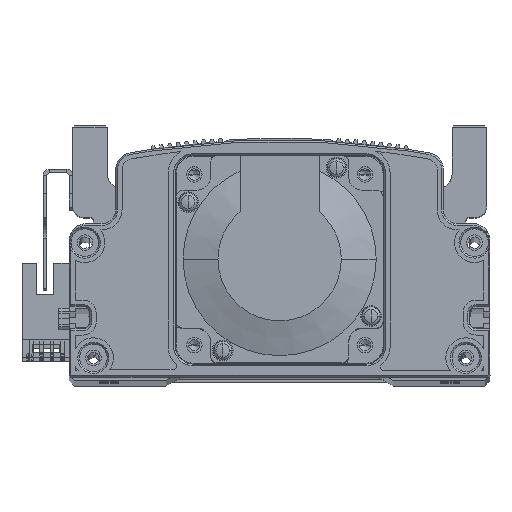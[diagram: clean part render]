
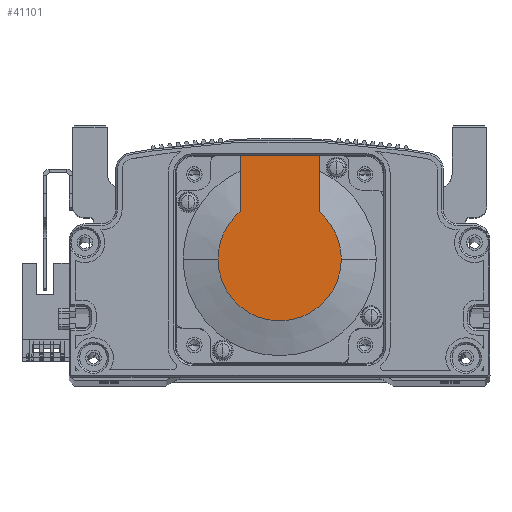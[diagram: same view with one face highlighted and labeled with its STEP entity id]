
A CAD part, top view. The second image highlights one B-rep face of the part: STEP entity #41101.
In plain terms, the highlighted planar face has unit normal (0, 0, 1) as drawn and (-1, 0, 0) by its records, which use the part's own axes.
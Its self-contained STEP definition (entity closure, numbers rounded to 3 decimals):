
#949 = CARTESIAN_POINT ( 'NONE',  ( -118.5, 30., -11.45 ) ) ;
#3178 = DIRECTION ( 'NONE',  ( 0., 0., 1. ) ) ;
#3712 = ORIENTED_EDGE ( 'NONE', *, *, #66453, .T. ) ;
#4598 = DIRECTION ( 'NONE',  ( -1., 0., 0. ) ) ;
#5416 = EDGE_CURVE ( 'NONE', #17328, #13205, #7806, .T. ) ;
#5424 = CARTESIAN_POINT ( 'NONE',  ( -118.5, 13.735, -11.45 ) ) ;
#5622 = VERTEX_POINT ( 'NONE', #949 ) ;
#5881 = ORIENTED_EDGE ( 'NONE', *, *, #34155, .F. ) ;
#6160 = DIRECTION ( 'NONE',  ( 0., 0., 1. ) ) ;
#6773 = EDGE_LOOP ( 'NONE', ( #3712, #12531, #50678, #48368, #5881, #22177 ) ) ;
#7806 = CIRCLE ( 'NONE', #20274, 17.881 ) ;
#8001 = CARTESIAN_POINT ( 'NONE',  ( -118.5, 13.735, 11.45 ) ) ;
#8006 = CIRCLE ( 'NONE', #46372, 17.881 ) ;
#11501 = VERTEX_POINT ( 'NONE', #5424 ) ;
#11982 = CARTESIAN_POINT ( 'NONE',  ( -118.5, 30., 25. ) ) ;
#12531 = ORIENTED_EDGE ( 'NONE', *, *, #61828, .T. ) ;
#13205 = VERTEX_POINT ( 'NONE', #63807 ) ;
#17328 = VERTEX_POINT ( 'NONE', #18925 ) ;
#18925 = CARTESIAN_POINT ( 'NONE',  ( -118.5, 0., -17.881 ) ) ;
#20274 = AXIS2_PLACEMENT_3D ( 'NONE', #70965, #4598, #42652 ) ;
#20307 = CARTESIAN_POINT ( 'NONE',  ( -118.5, -8.941, 0. ) ) ;
#21479 = CARTESIAN_POINT ( 'NONE',  ( -118.5, 0., 0. ) ) ;
#21809 = DIRECTION ( 'NONE',  ( 0., 0., -1. ) ) ;
#22177 = ORIENTED_EDGE ( 'NONE', *, *, #31317, .F. ) ;
#23644 = LINE ( 'NONE', #11982, #46178 ) ;
#31317 = EDGE_CURVE ( 'NONE', #5622, #33179, #23644, .T. ) ;
#32403 = DIRECTION ( 'NONE',  ( -1., 0., 0. ) ) ;
#33179 = VERTEX_POINT ( 'NONE', #46974 ) ;
#34155 = EDGE_CURVE ( 'NONE', #33179, #41069, #45915, .T. ) ;
#35444 = CARTESIAN_POINT ( 'NONE',  ( -118.5, 0., 11.45 ) ) ;
#36592 = AXIS2_PLACEMENT_3D ( 'NONE', #21479, #32403, #48442 ) ;
#40720 = VECTOR ( 'NONE', #63783, 1000. ) ;
#41069 = VERTEX_POINT ( 'NONE', #8001 ) ;
#41101 = ADVANCED_FACE ( 'NONE', ( #55566 ), #69507, .T. ) ;
#42155 = EDGE_CURVE ( 'NONE', #13205, #41069, #8006, .T. ) ;
#42652 = DIRECTION ( 'NONE',  ( 0., 0., -1. ) ) ;
#45915 = LINE ( 'NONE', #35444, #40720 ) ;
#46178 = VECTOR ( 'NONE', #6160, 1000. ) ;
#46318 = DIRECTION ( 'NONE',  ( 0., -1., 0. ) ) ;
#46372 = AXIS2_PLACEMENT_3D ( 'NONE', #48322, #65727, #21809 ) ;
#46974 = CARTESIAN_POINT ( 'NONE',  ( -118.5, 30., 11.45 ) ) ;
#48322 = CARTESIAN_POINT ( 'NONE',  ( -118.5, 0., 0. ) ) ;
#48368 = ORIENTED_EDGE ( 'NONE', *, *, #42155, .T. ) ;
#48442 = DIRECTION ( 'NONE',  ( 0., 0., -1. ) ) ;
#50678 = ORIENTED_EDGE ( 'NONE', *, *, #5416, .T. ) ;
#50979 = AXIS2_PLACEMENT_3D ( 'NONE', #20307, #70017, #3178 ) ;
#51743 = VECTOR ( 'NONE', #46318, 1000. ) ;
#52611 = CIRCLE ( 'NONE', #36592, 17.881 ) ;
#55566 = FACE_OUTER_BOUND ( 'NONE', #6773, .T. ) ;
#56774 = CARTESIAN_POINT ( 'NONE',  ( -118.5, -8.941, -11.45 ) ) ;
#61828 = EDGE_CURVE ( 'NONE', #11501, #17328, #52611, .T. ) ;
#63783 = DIRECTION ( 'NONE',  ( 0., -1., 0. ) ) ;
#63807 = CARTESIAN_POINT ( 'NONE',  ( -118.5, 0., 17.881 ) ) ;
#65727 = DIRECTION ( 'NONE',  ( -1., 0., 0. ) ) ;
#66453 = EDGE_CURVE ( 'NONE', #5622, #11501, #68169, .T. ) ;
#68169 = LINE ( 'NONE', #56774, #51743 ) ;
#69507 = PLANE ( 'NONE',  #50979 ) ;
#70017 = DIRECTION ( 'NONE',  ( -1., 0., 0. ) ) ;
#70965 = CARTESIAN_POINT ( 'NONE',  ( -118.5, 0., 0. ) ) ;
